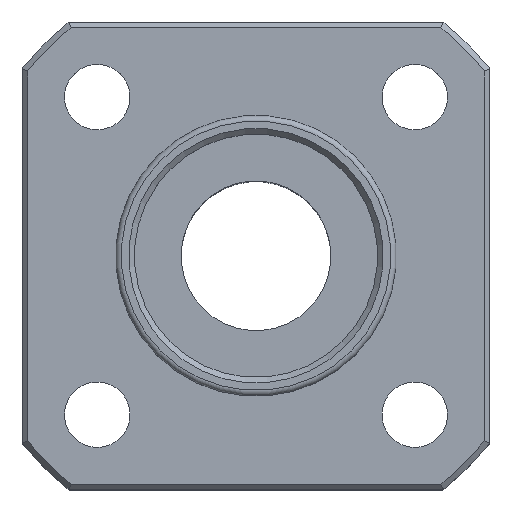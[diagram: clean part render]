
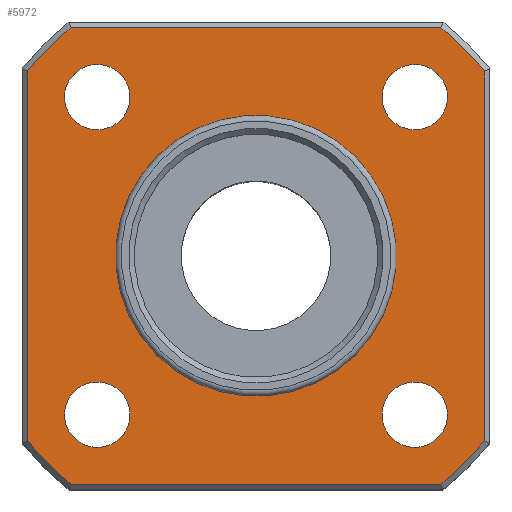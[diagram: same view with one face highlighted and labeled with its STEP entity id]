
A CAD part, top view. The second image highlights one B-rep face of the part: STEP entity #5972.
In plain terms, the highlighted planar face has unit normal (0, 0, 1).
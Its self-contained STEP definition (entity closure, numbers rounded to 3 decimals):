
#128=CIRCLE('',#6335,15.7);
#134=CIRCLE('',#6346,15.7);
#136=CIRCLE('',#6351,15.7);
#151=CIRCLE('',#6374,7.5);
#159=CIRCLE('',#6387,15.7);
#160=CIRCLE('',#6388,1.75);
#161=CIRCLE('',#6389,1.75);
#162=CIRCLE('',#6390,1.75);
#163=CIRCLE('',#6391,1.75);
#627=ORIENTED_EDGE('',*,*,#2303,.T.);
#628=ORIENTED_EDGE('',*,*,#2337,.T.);
#629=ORIENTED_EDGE('',*,*,#2310,.T.);
#630=ORIENTED_EDGE('',*,*,#2338,.T.);
#631=ORIENTED_EDGE('',*,*,#2287,.T.);
#632=ORIENTED_EDGE('',*,*,#2339,.T.);
#633=ORIENTED_EDGE('',*,*,#2340,.T.);
#634=ORIENTED_EDGE('',*,*,#2341,.T.);
#635=ORIENTED_EDGE('',*,*,#2342,.F.);
#636=ORIENTED_EDGE('',*,*,#2343,.F.);
#637=ORIENTED_EDGE('',*,*,#2344,.F.);
#638=ORIENTED_EDGE('',*,*,#2345,.F.);
#639=ORIENTED_EDGE('',*,*,#2327,.T.);
#2287=EDGE_CURVE('',#3148,#3147,#128,.T.);
#2303=EDGE_CURVE('',#3160,#3159,#134,.T.);
#2310=EDGE_CURVE('',#3163,#3164,#136,.T.);
#2327=EDGE_CURVE('',#3179,#3179,#151,.F.);
#2337=EDGE_CURVE('',#3159,#3163,#3670,.T.);
#2338=EDGE_CURVE('',#3164,#3148,#3671,.T.);
#2339=EDGE_CURVE('',#3147,#3188,#3672,.T.);
#2340=EDGE_CURVE('',#3188,#3189,#159,.T.);
#2341=EDGE_CURVE('',#3189,#3160,#3673,.T.);
#2342=EDGE_CURVE('',#3190,#3190,#160,.T.);
#2343=EDGE_CURVE('',#3191,#3191,#161,.T.);
#2344=EDGE_CURVE('',#3192,#3192,#162,.T.);
#2345=EDGE_CURVE('',#3193,#3193,#163,.T.);
#3147=VERTEX_POINT('',#9386);
#3148=VERTEX_POINT('',#9388);
#3159=VERTEX_POINT('',#9437);
#3160=VERTEX_POINT('',#9439);
#3163=VERTEX_POINT('',#9461);
#3164=VERTEX_POINT('',#9462);
#3179=VERTEX_POINT('',#9508);
#3188=VERTEX_POINT('',#9534);
#3189=VERTEX_POINT('',#9536);
#3190=VERTEX_POINT('',#9539);
#3191=VERTEX_POINT('',#9541);
#3192=VERTEX_POINT('',#9543);
#3193=VERTEX_POINT('',#9545);
#3670=LINE('',#9531,#4334);
#3671=LINE('',#9532,#4335);
#3672=LINE('',#9533,#4336);
#3673=LINE('',#9537,#4337);
#4334=VECTOR('',#6996,1000.);
#4335=VECTOR('',#6997,1000.);
#4336=VECTOR('',#6998,1000.);
#4337=VECTOR('',#7001,1000.);
#4875=EDGE_LOOP('',(#627,#628,#629,#630,#631,#632,#633,#634));
#4876=EDGE_LOOP('',(#635));
#4877=EDGE_LOOP('',(#636));
#4878=EDGE_LOOP('',(#637));
#4879=EDGE_LOOP('',(#638));
#4880=EDGE_LOOP('',(#639));
#5319=FACE_BOUND('',#4875,.T.);
#5320=FACE_BOUND('',#4876,.T.);
#5321=FACE_BOUND('',#4877,.T.);
#5322=FACE_BOUND('',#4878,.T.);
#5323=FACE_BOUND('',#4879,.T.);
#5324=FACE_BOUND('',#4880,.T.);
#5695=PLANE('',#6386);
#5972=ADVANCED_FACE('',(#5319,#5320,#5321,#5322,#5323,#5324),#5695,.T.);
#6335=AXIS2_PLACEMENT_3D('',#9387,#6884,#6885);
#6346=AXIS2_PLACEMENT_3D('',#9438,#6910,#6911);
#6351=AXIS2_PLACEMENT_3D('',#9460,#6922,#6923);
#6374=AXIS2_PLACEMENT_3D('',#9507,#6968,#6969);
#6386=AXIS2_PLACEMENT_3D('',#9530,#6994,#6995);
#6387=AXIS2_PLACEMENT_3D('',#9535,#6999,#7000);
#6388=AXIS2_PLACEMENT_3D('',#9538,#7002,#7003);
#6389=AXIS2_PLACEMENT_3D('',#9540,#7004,#7005);
#6390=AXIS2_PLACEMENT_3D('',#9542,#7006,#7007);
#6391=AXIS2_PLACEMENT_3D('',#9544,#7008,#7009);
#6884=DIRECTION('',(0.,0.,1.));
#6885=DIRECTION('',(0.707,-0.707,0.));
#6910=DIRECTION('',(0.,0.,1.));
#6911=DIRECTION('',(0.707,-0.707,0.));
#6922=DIRECTION('',(0.,0.,1.));
#6923=DIRECTION('',(0.707,-0.707,0.));
#6968=DIRECTION('',(0.,0.,1.));
#6969=DIRECTION('',(0.707,-0.707,0.));
#6994=DIRECTION('',(0.,0.,1.));
#6995=DIRECTION('',(0.707,-0.707,0.));
#6996=DIRECTION('',(0.,1.,0.));
#6997=DIRECTION('',(-1.,0.,0.));
#6998=DIRECTION('',(0.,-1.,0.));
#6999=DIRECTION('',(0.,0.,1.));
#7000=DIRECTION('',(0.707,-0.707,0.));
#7001=DIRECTION('',(1.,0.,0.));
#7002=DIRECTION('',(0.,0.,1.));
#7003=DIRECTION('',(0.707,-0.707,0.));
#7004=DIRECTION('',(0.,0.,1.));
#7005=DIRECTION('',(0.707,-0.707,0.));
#7006=DIRECTION('',(0.,0.,1.));
#7007=DIRECTION('',(0.707,-0.707,0.));
#7008=DIRECTION('',(0.,0.,1.));
#7009=DIRECTION('',(0.707,-0.707,0.));
#9386=CARTESIAN_POINT('',(-12.2,9.882,0.));
#9387=CARTESIAN_POINT('',(0.,0.,0.));
#9388=CARTESIAN_POINT('',(-9.882,12.2,0.));
#9437=CARTESIAN_POINT('',(12.2,-9.882,0.));
#9438=CARTESIAN_POINT('',(0.,0.,0.));
#9439=CARTESIAN_POINT('',(9.882,-12.2,0.));
#9460=CARTESIAN_POINT('',(0.,0.,0.));
#9461=CARTESIAN_POINT('',(12.2,9.882,0.));
#9462=CARTESIAN_POINT('',(9.882,12.2,0.));
#9507=CARTESIAN_POINT('',(0.,0.,0.));
#9508=CARTESIAN_POINT('',(5.303,-5.303,0.));
#9530=CARTESIAN_POINT('',(0.,0.,0.));
#9531=CARTESIAN_POINT('',(12.2,9.499,0.));
#9532=CARTESIAN_POINT('',(-9.499,12.2,0.));
#9533=CARTESIAN_POINT('',(-12.2,-9.499,0.));
#9534=CARTESIAN_POINT('',(-12.2,-9.882,0.));
#9535=CARTESIAN_POINT('',(0.,0.,0.));
#9536=CARTESIAN_POINT('',(-9.882,-12.2,0.));
#9537=CARTESIAN_POINT('',(9.499,-12.2,0.));
#9538=CARTESIAN_POINT('',(8.485,8.485,0.));
#9539=CARTESIAN_POINT('',(9.723,7.248,0.));
#9540=CARTESIAN_POINT('',(-8.485,8.485,0.));
#9541=CARTESIAN_POINT('',(-7.248,7.248,0.));
#9542=CARTESIAN_POINT('',(-8.485,-8.485,0.));
#9543=CARTESIAN_POINT('',(-7.248,-9.723,0.));
#9544=CARTESIAN_POINT('',(8.485,-8.485,0.));
#9545=CARTESIAN_POINT('',(9.723,-9.723,0.));
